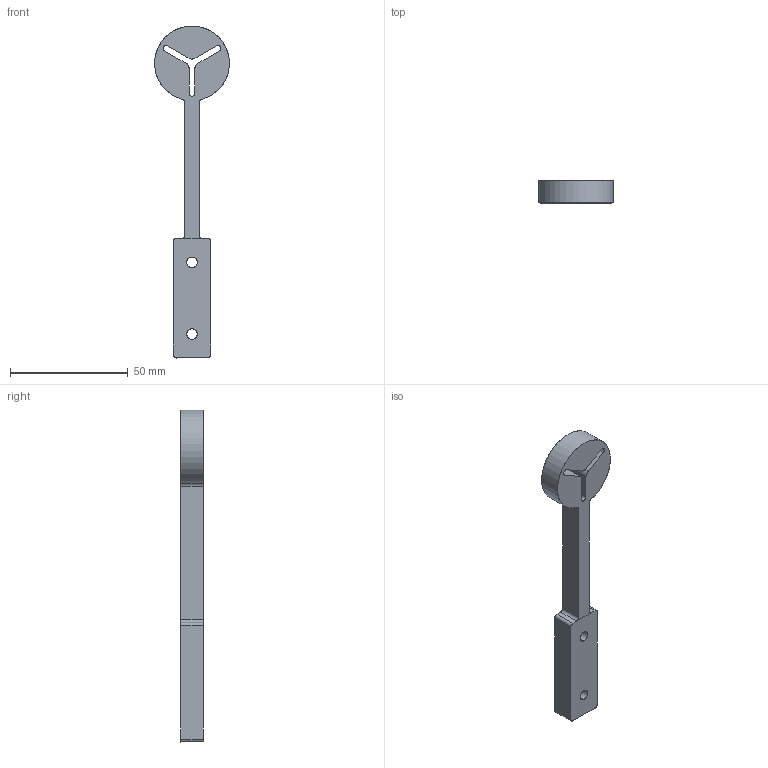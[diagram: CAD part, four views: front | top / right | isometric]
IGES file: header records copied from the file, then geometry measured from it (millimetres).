
Start section: SolidWorks IGES file using analytic representation for surfaces
Global section: file name: C:\Users\cuervo\Documents\OpenROV\test_stand_CAD\motor_mounts\prt_motor_mount_plate_eqTri.IGS; native system: SolidWorks 2011; preprocessor: SolidWorks 2011; author: cuervo; date: 140428.090923; units: inch
Bounding box: 31.72 x 9.53 x 141.1 mm (x, y, z)
Surface area: 7917.7 mm2 (no closed solid volume)
Topology: 0 solids, 0 shells, 38 faces, 572 edges, 572 vertices
Faces by surface type: revolution 21, bspline 17
